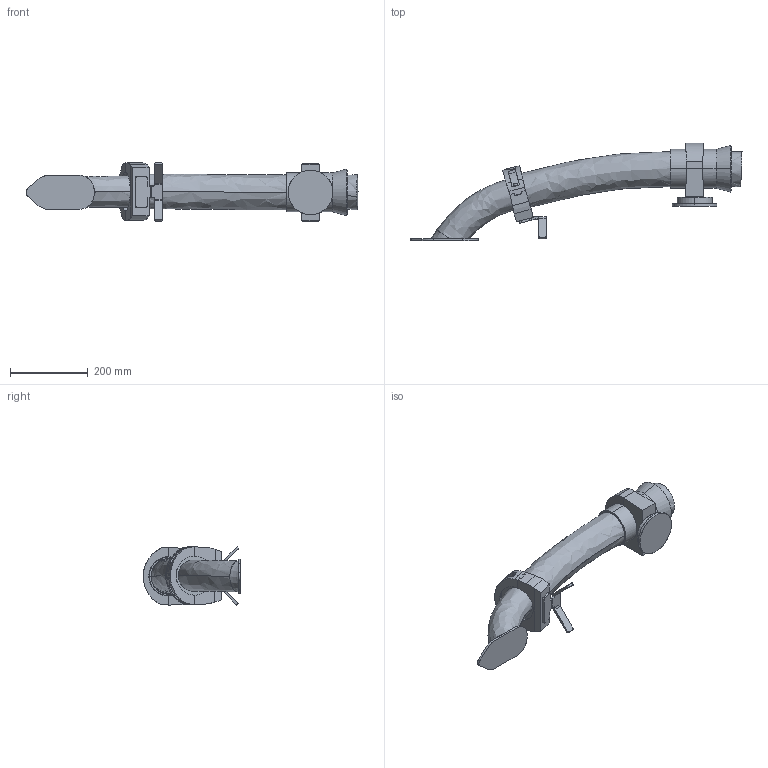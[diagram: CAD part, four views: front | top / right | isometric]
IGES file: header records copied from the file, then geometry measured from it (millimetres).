
Start section: SolidWorks IGES file using analytic representation for surfaces
Global section: file name: C:\Users\SEALDUN\OneDrive - ABB\Documents\R&D Robotics\Work Items\WI 632927 light weight hole removal\IGES\IRB5720-MH3_180kg-260_OC_03_IGES_J\IRB5720-MH3_180kg-260_OC_01_LINK04_CABLE.igs; native system: SolidWorks 2024; preprocessor: SolidWorks 2024; author: SEALDUN; date: 250708.132350; units: millimetre
Bounding box: 855.15 x 251 x 150.86 mm (x, y, z)
Surface area: 453208.7 mm2 (no closed solid volume)
Topology: 0 solids, 0 shells, 294 faces, 5226 edges, 5226 vertices
Faces by surface type: bspline 184, revolution 110
